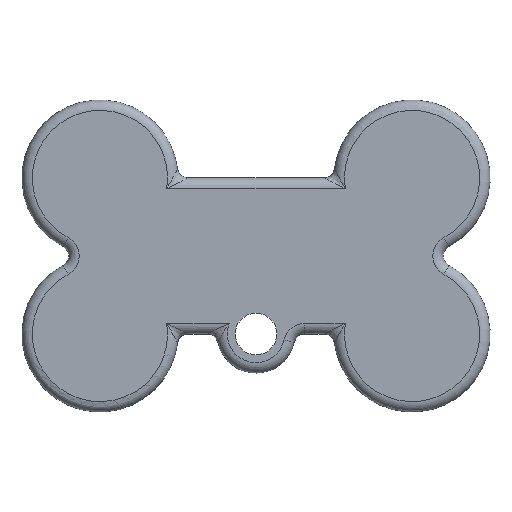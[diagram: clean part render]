
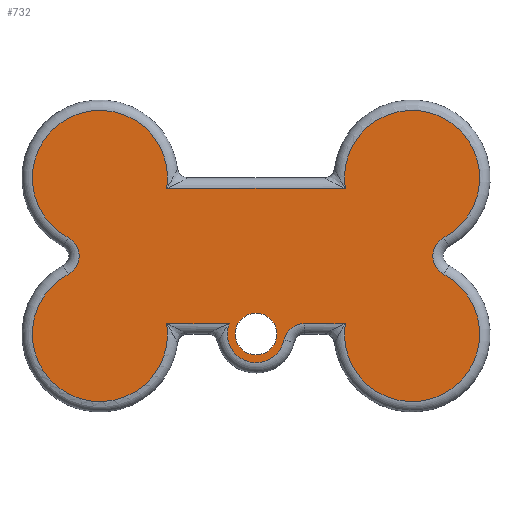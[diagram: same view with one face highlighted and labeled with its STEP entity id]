
A CAD part, front view. The second image highlights one B-rep face of the part: STEP entity #732.
In plain terms, the highlighted planar face has unit normal (0, -1, 0).
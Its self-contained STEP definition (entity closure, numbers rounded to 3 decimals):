
#84=FACE_BOUND('',#188,.T.);
#135=FACE_OUTER_BOUND('',#187,.T.);
#187=EDGE_LOOP('',(#664,#665,#666,#667,#668,#669,#670,#671,#672,#673,#674));
#188=EDGE_LOOP('',(#675,#676));
#198=CIRCLE('',#758,2.54);
#199=CIRCLE('',#759,2.54);
#204=CIRCLE('',#768,8.255);
#215=CIRCLE('',#789,8.255);
#221=CIRCLE('',#797,8.255);
#227=CIRCLE('',#807,2.54);
#229=CIRCLE('',#810,3.493);
#233=CIRCLE('',#818,2.54);
#234=CIRCLE('',#820,8.255);
#238=CIRCLE('',#825,2.54);
#253=LINE('',#1239,#282);
#260=LINE('',#1524,#289);
#266=LINE('',#1821,#295);
#282=VECTOR('',#889,10.);
#289=VECTOR('',#930,10.);
#295=VECTOR('',#978,10.);
#314=VERTEX_POINT('',#1090);
#315=VERTEX_POINT('',#1092);
#318=VERTEX_POINT('',#1148);
#323=VERTEX_POINT('',#1238);
#325=VERTEX_POINT('',#1251);
#331=VERTEX_POINT('',#1426);
#336=VERTEX_POINT('',#1523);
#341=VERTEX_POINT('',#1654);
#346=VERTEX_POINT('',#1782);
#348=VERTEX_POINT('',#1810);
#350=VERTEX_POINT('',#1820);
#352=VERTEX_POINT('',#1826);
#356=VERTEX_POINT('',#1848);
#372=EDGE_CURVE('',#315,#314,#198,.T.);
#373=EDGE_CURVE('',#314,#315,#199,.T.);
#385=EDGE_CURVE('',#318,#323,#253,.T.);
#389=EDGE_CURVE('',#325,#318,#204,.T.);
#410=EDGE_CURVE('',#331,#336,#260,.T.);
#420=EDGE_CURVE('',#336,#341,#215,.T.);
#432=EDGE_CURVE('',#348,#346,#221,.T.);
#436=EDGE_CURVE('',#346,#350,#266,.T.);
#441=EDGE_CURVE('',#350,#352,#227,.T.);
#443=EDGE_CURVE('',#352,#331,#229,.T.);
#450=EDGE_CURVE('',#341,#325,#233,.T.);
#451=EDGE_CURVE('',#323,#356,#234,.T.);
#455=EDGE_CURVE('',#356,#348,#238,.T.);
#664=ORIENTED_EDGE('',*,*,#432,.F.);
#665=ORIENTED_EDGE('',*,*,#455,.F.);
#666=ORIENTED_EDGE('',*,*,#451,.F.);
#667=ORIENTED_EDGE('',*,*,#385,.F.);
#668=ORIENTED_EDGE('',*,*,#389,.F.);
#669=ORIENTED_EDGE('',*,*,#450,.F.);
#670=ORIENTED_EDGE('',*,*,#420,.F.);
#671=ORIENTED_EDGE('',*,*,#410,.F.);
#672=ORIENTED_EDGE('',*,*,#443,.F.);
#673=ORIENTED_EDGE('',*,*,#441,.F.);
#674=ORIENTED_EDGE('',*,*,#436,.F.);
#675=ORIENTED_EDGE('',*,*,#372,.T.);
#676=ORIENTED_EDGE('',*,*,#373,.T.);
#681=PLANE('',#841);
#732=ADVANCED_FACE('',(#135,#84),#681,.T.);
#758=AXIS2_PLACEMENT_3D('',#1093,#870,#871);
#759=AXIS2_PLACEMENT_3D('',#1094,#872,#873);
#768=AXIS2_PLACEMENT_3D('',#1253,#896,#897);
#789=AXIS2_PLACEMENT_3D('',#1655,#947,#948);
#797=AXIS2_PLACEMENT_3D('',#1812,#965,#966);
#807=AXIS2_PLACEMENT_3D('',#1830,#988,#989);
#810=AXIS2_PLACEMENT_3D('',#1833,#994,#995);
#818=AXIS2_PLACEMENT_3D('',#1846,#1013,#1014);
#820=AXIS2_PLACEMENT_3D('',#1849,#1017,#1018);
#825=AXIS2_PLACEMENT_3D('',#1855,#1027,#1028);
#841=AXIS2_PLACEMENT_3D('',#1930,#1061,#1062);
#870=DIRECTION('center_axis',(0.,1.,0.));
#871=DIRECTION('ref_axis',(0.,0.,1.));
#872=DIRECTION('center_axis',(0.,1.,0.));
#873=DIRECTION('ref_axis',(0.,0.,1.));
#889=DIRECTION('',(1.,0.,0.));
#896=DIRECTION('center_axis',(0.,1.,0.));
#897=DIRECTION('ref_axis',(-0.456,0.,0.89));
#930=DIRECTION('',(-1.,0.,0.));
#947=DIRECTION('center_axis',(0.,1.,0.));
#948=DIRECTION('ref_axis',(-0.514,0.,-0.857));
#965=DIRECTION('center_axis',(0.,1.,0.));
#966=DIRECTION('ref_axis',(0.514,0.,-0.857));
#978=DIRECTION('',(-1.,0.,0.));
#988=DIRECTION('center_axis',(0.,-1.,0.));
#989=DIRECTION('ref_axis',(-0.628,0.,0.778));
#994=DIRECTION('center_axis',(0.,1.,0.));
#995=DIRECTION('ref_axis',(-0.106,0.,-0.994));
#1013=DIRECTION('center_axis',(0.,-1.,0.));
#1014=DIRECTION('ref_axis',(1.,0.,0.));
#1017=DIRECTION('center_axis',(0.,1.,0.));
#1018=DIRECTION('ref_axis',(0.456,0.,0.89));
#1027=DIRECTION('center_axis',(0.,-1.,0.));
#1028=DIRECTION('ref_axis',(-1.,0.,0.));
#1061=DIRECTION('center_axis',(0.,-1.,0.));
#1062=DIRECTION('ref_axis',(0.,0.,-1.));
#1090=CARTESIAN_POINT('',(0.532,0.,-11.749));
#1092=CARTESIAN_POINT('',(0.532,0.,-6.669));
#1093=CARTESIAN_POINT('Origin',(0.532,0.,-9.209));
#1094=CARTESIAN_POINT('Origin',(0.532,0.,-9.209));
#1148=CARTESIAN_POINT('',(-10.361,0.,8.571));
#1238=CARTESIAN_POINT('',(11.426,0.,8.571));
#1239=CARTESIAN_POINT('',(-4.23,0.,8.571));
#1251=CARTESIAN_POINT('',(-22.402,0.,2.557));
#1253=CARTESIAN_POINT('Origin',(-18.518,0.,9.841));
#1426=CARTESIAN_POINT('',(-2.721,0.,-7.939));
#1523=CARTESIAN_POINT('',(-10.361,0.,-7.939));
#1524=CARTESIAN_POINT('',(-1.849,0.,-7.939));
#1654=CARTESIAN_POINT('',(-22.402,0.,-1.926));
#1655=CARTESIAN_POINT('Origin',(-18.518,0.,-9.209));
#1782=CARTESIAN_POINT('',(11.426,0.,-7.939));
#1810=CARTESIAN_POINT('',(23.467,0.,-1.926));
#1812=CARTESIAN_POINT('Origin',(19.582,0.,-9.209));
#1820=CARTESIAN_POINT('',(6.43,0.,-7.939));
#1821=CARTESIAN_POINT('',(5.295,0.,-7.939));
#1826=CARTESIAN_POINT('',(3.946,0.,-9.945));
#1830=CARTESIAN_POINT('Origin',(6.43,0.,-10.479));
#1833=CARTESIAN_POINT('Origin',(0.532,0.,-9.209));
#1846=CARTESIAN_POINT('Origin',(-23.598,0.,0.316));
#1848=CARTESIAN_POINT('',(23.467,0.,2.557));
#1849=CARTESIAN_POINT('Origin',(19.582,0.,9.841));
#1855=CARTESIAN_POINT('Origin',(24.662,0.,0.316));
#1930=CARTESIAN_POINT('Origin',(0.538,0.,4.286));
